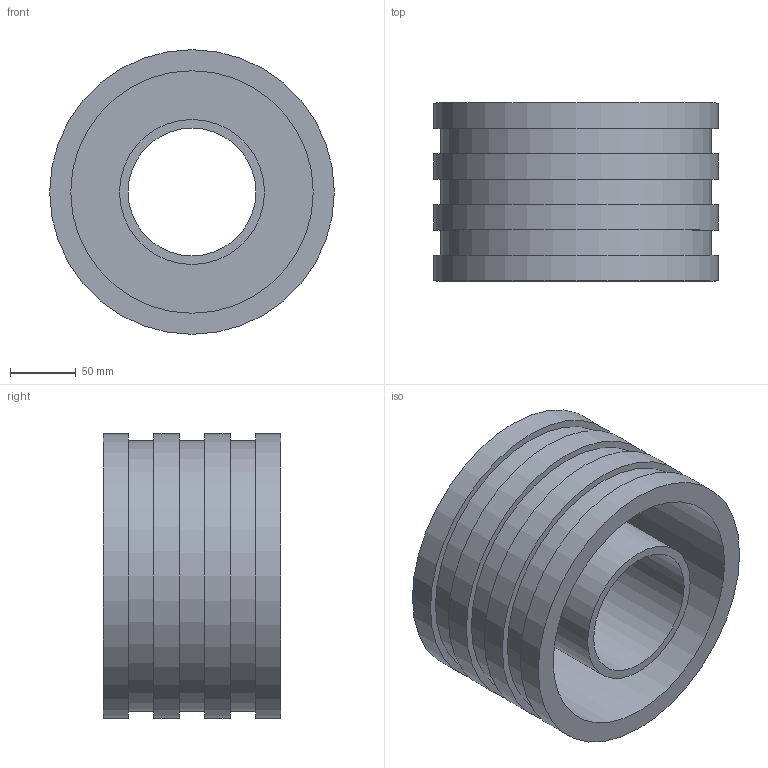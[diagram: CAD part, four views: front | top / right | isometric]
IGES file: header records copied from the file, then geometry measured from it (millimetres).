
Global section: file name: 37020110.ipt; native system: Autodesk Inventor 2015; preprocessor: unknown; author: Кирилл,,11,0; organization: 20170830.190241; date: 20171106.093311; units: millimetre
Bounding box: 216 x 135 x 216 mm (x, y, z)
Volume: 1600551.3 mm3; surface area: 326512.3 mm2
Topology: 1 solids, 1 shells, 20 faces, 34 edges, 24 vertices
Faces by surface type: plane 10, cylinder 8, revolution 2
Full cylindrical faces by diameter (mm): 110 x1, 205.2 x3, 216 x4
